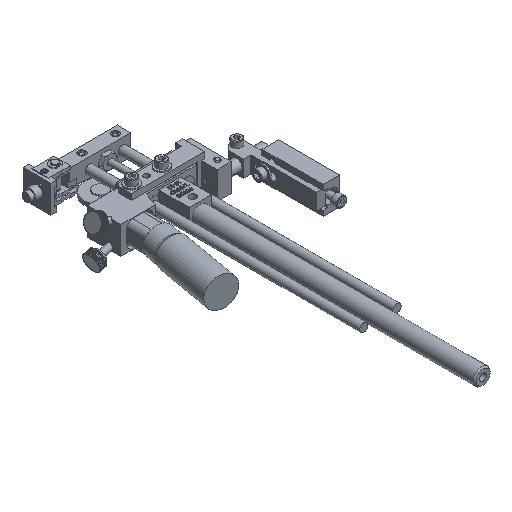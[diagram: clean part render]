
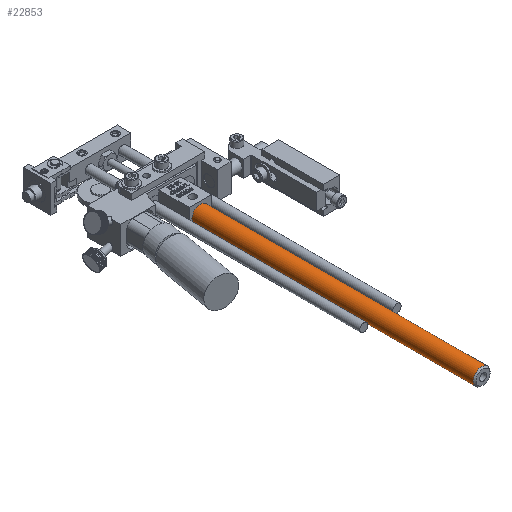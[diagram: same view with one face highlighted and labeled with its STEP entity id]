
A CAD part, isometric view. The second image highlights one B-rep face of the part: STEP entity #22853.
In plain terms, the highlighted cylindrical face has radius 4.763 mm (diameter 9.525 mm), a full revolution.
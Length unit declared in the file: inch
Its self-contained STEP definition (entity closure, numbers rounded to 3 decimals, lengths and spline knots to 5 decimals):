
#22822=CARTESIAN_POINT('',(0.44663,-8.66833,-0.04751));
#22823=VERTEX_POINT('',#22822);
#22824=CARTESIAN_POINT('',(0.44663,-8.66833,-0.23501));
#22825=DIRECTION('',(0.0,-1.0,0.0));
#22826=DIRECTION('',(0.0,0.0,-1.0));
#22827=AXIS2_PLACEMENT_3D('',#22824,#22825,#22826);
#22828=CIRCLE('',#22827,0.1875);
#22829=EDGE_CURVE('',#22823,#22823,#22828,.T.);
#22834=CARTESIAN_POINT('',(0.44663,-2.32333,-0.23501));
#22835=DIRECTION('',(0.,-1.0,0.));
#22836=DIRECTION('',(0.0,0.0,-1.0));
#22837=AXIS2_PLACEMENT_3D('',#22834,#22835,#22836);
#22838=CYLINDRICAL_SURFACE('',#22837,0.1875);
#22839=CARTESIAN_POINT('',(0.44663,-2.32333,-0.04751));
#22840=VERTEX_POINT('',#22839);
#22841=CARTESIAN_POINT('',(0.44663,-2.32333,-0.23501));
#22842=DIRECTION('',(0.0,1.0,0.0));
#22843=DIRECTION('',(0.0,0.0,-1.0));
#22844=AXIS2_PLACEMENT_3D('',#22841,#22842,#22843);
#22845=CIRCLE('',#22844,0.1875);
#22846=EDGE_CURVE('',#22840,#22840,#22845,.T.);
#22847=ORIENTED_EDGE('',*,*,#22846,.F.);
#22848=EDGE_LOOP('',(#22847));
#22849=FACE_OUTER_BOUND('',#22848,.T.);
#22850=ORIENTED_EDGE('',*,*,#22829,.F.);
#22851=EDGE_LOOP('',(#22850));
#22852=FACE_BOUND('',#22851,.T.);
#22853=ADVANCED_FACE('',(#22849,#22852),#22838,.T.);
